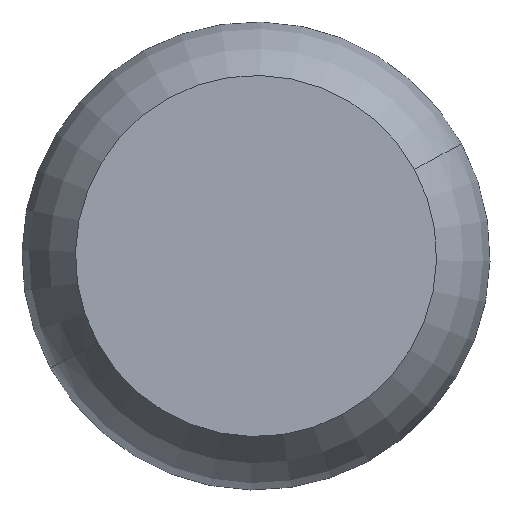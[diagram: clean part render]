
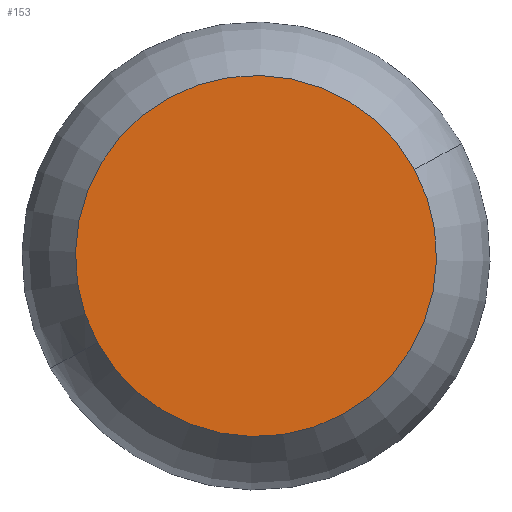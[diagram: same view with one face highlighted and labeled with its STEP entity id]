
A CAD part, front view. The second image highlights one B-rep face of the part: STEP entity #153.
In plain terms, the highlighted planar face has unit normal (0, -1, 0).
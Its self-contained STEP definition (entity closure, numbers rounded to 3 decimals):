
#66=CARTESIAN_POINT('Axis2P3D Location',(0.,0.,0.)) ;
#70=CARTESIAN_POINT('Vertex',(98.289,0.,53.696)) ;
#72=CARTESIAN_POINT('Vertex',(-98.289,0.,-53.696)) ;
#127=CARTESIAN_POINT('Axis2P3D Location',(0.,0.,0.)) ;
#144=CARTESIAN_POINT('Axis2P3D Location',(0.,0.,0.)) ;
#67=DIRECTION('Axis2P3D Direction',(0.,-1.,0.)) ;
#128=DIRECTION('Axis2P3D Direction',(0.,-1.,0.)) ;
#145=DIRECTION('Axis2P3D Direction',(0.,-1.,0.)) ;
#146=DIRECTION('Axis2P3D XDirection',(1.,0.,0.)) ;
#68=AXIS2_PLACEMENT_3D('Circle Axis2P3D',#66,#67,$) ;
#129=AXIS2_PLACEMENT_3D('Circle Axis2P3D',#127,#128,$) ;
#147=AXIS2_PLACEMENT_3D('Plane Axis2P3D',#144,#145,#146) ;
#150=ORIENTED_EDGE('',*,*,#74,.T.) ;
#151=ORIENTED_EDGE('',*,*,#131,.T.) ;
#153=ADVANCED_FACE('PartBody',(#152),#148,.T.) ;
#69=CIRCLE('generated circle',#68,112.) ;
#130=CIRCLE('generated circle',#129,112.) ;
#74=EDGE_CURVE('',#71,#73,#69,.T.) ;
#131=EDGE_CURVE('',#73,#71,#130,.T.) ;
#149=EDGE_LOOP('',(#150,#151)) ;
#152=FACE_OUTER_BOUND('',#149,.T.) ;
#148=PLANE('',#147) ;
#71=VERTEX_POINT('',#70) ;
#73=VERTEX_POINT('',#72) ;
